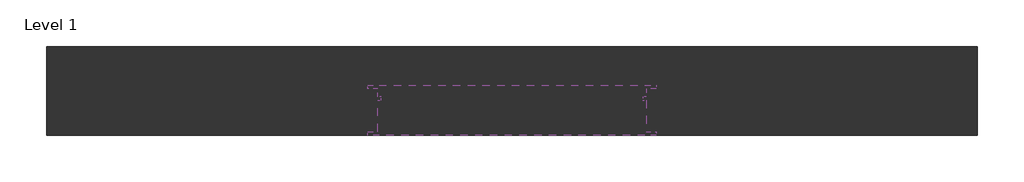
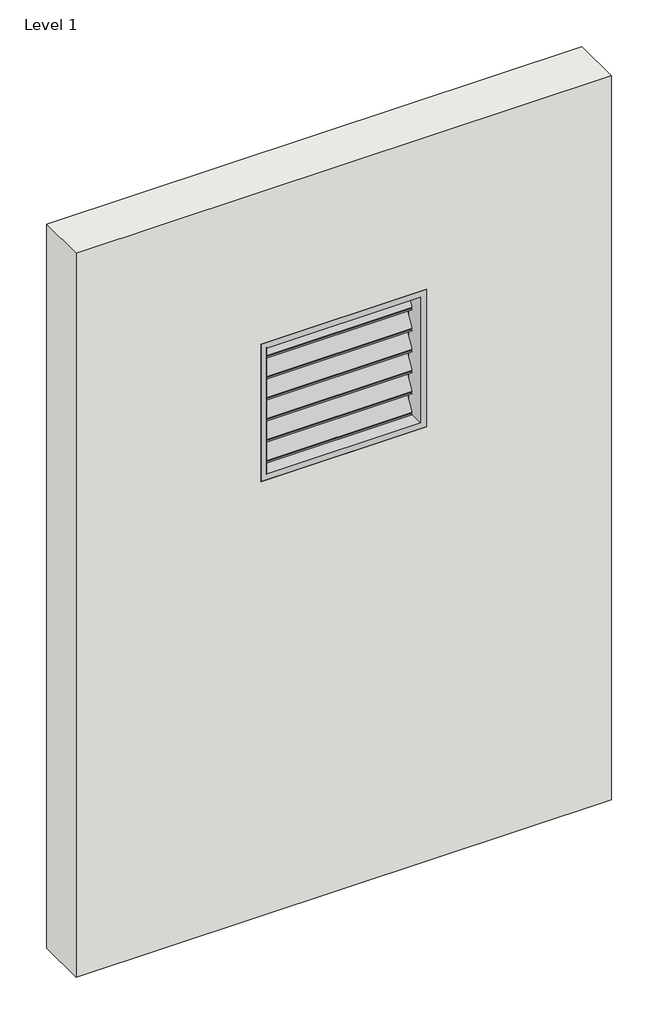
# One storey, incomplete: 1 air terminal, 1 wall.
"""IFC4 building model written with IfcOpenShell, lengths in millimetres."""

from ifc_helpers import new_model, si_unit, frame, origin, place, context, project, spatial, polyline, outline, extrude, transform, mapped, element, save
from components import bde_duct_flange_009f4d56

model = new_model("IFC4")

# Units and contexts
model_context = context("Model", 3, world=origin())
ifc_project = project(units=[si_unit("LENGTHUNIT", "METRE", prefix="MILLI")], contexts=[model_context])

# Site, building, storey
site = spatial("IfcSite", under=ifc_project)
building = spatial("IfcBuilding", under=site)
storey = spatial("IfcBuildingStorey", under=building, Name="Level 1", Elevation=0.0)

# Air terminal
placement = place(None, origin())
bde_duct_flange_shape = bde_duct_flange_009f4d56(model_context)
element("IfcAirTerminal", 1, ObjectType="DC_Holyoake_BackDraftDamper_BDE_DuctFlange_14 : BDE Duct Flange", at=placement, inside=storey, context=model_context, shape_type="MappedRepresentation", body=[
    mapped(bde_duct_flange_shape, transform((-3479.5618176, 4363.9401314, 1300.0), x_axis=(-1.0, 0.0, 0.0), y_axis=(0.0, -1.0, 0.0), z_axis=(0.0, 0.0, 1.0))),
])

# Wall
element("IfcWall", 2, ObjectType="Wall 1", at=placement, inside=storey, context=model_context, shape_type="SweptSolid", body=[
    extrude(outline(polyline([(0.0, -4654.5618176), (0.0, -2554.5618176), (3000.0, -2554.5618176), (3000.0, -4654.5618176), (0.0, -4654.5618176)]), holes=[polyline([(2370.0, -3279.5618176), (1800.0, -3279.5618176), (1800.0, -3929.5618176), (2370.0, -3929.5618176), (2370.0, -3279.5618176)])]), frame((0.0, 4263.9401314, 0.0), z_axis=(0.0, 1.0, 0.0), x_axis=(0.0, 0.0, 1.0)), (0.0, 0.0, 1.0), 200.0),
])

save(model, "model.ifc")
